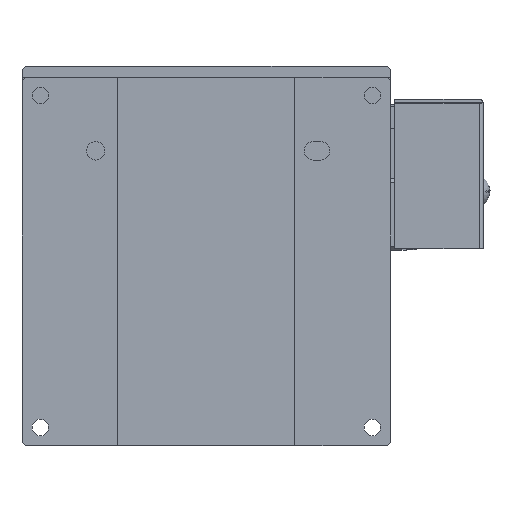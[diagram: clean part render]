
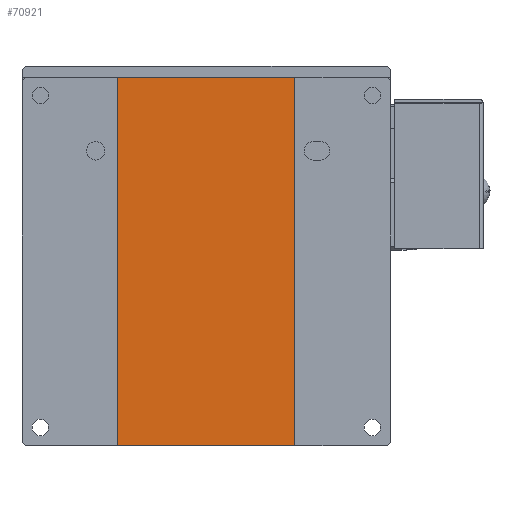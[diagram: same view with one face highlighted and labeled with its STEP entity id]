
A CAD part, front view. The second image highlights one B-rep face of the part: STEP entity #70921.
In plain terms, the highlighted planar face has unit normal (0, -1, 0) as drawn and (1, 0, 0) by its records, which use the part's own axes.
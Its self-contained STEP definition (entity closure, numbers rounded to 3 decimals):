
#1753 = VECTOR ( 'NONE', #51789, 1000. ) ;
#3812 = AXIS2_PLACEMENT_3D ( 'NONE', #6022, #35883, #11312 ) ;
#5494 = LINE ( 'NONE', #51371, #23460 ) ;
#6022 = CARTESIAN_POINT ( 'NONE',  ( 444.23, -160.111, 65. ) ) ;
#7517 = CARTESIAN_POINT ( 'NONE',  ( 444.23, -136.111, 115. ) ) ;
#10174 = DIRECTION ( 'NONE',  ( 0., 0., -1. ) ) ;
#10559 = DIRECTION ( 'NONE',  ( 0., 0., 1. ) ) ;
#11312 = DIRECTION ( 'NONE',  ( 0., 0., -1. ) ) ;
#13783 = EDGE_CURVE ( 'NONE', #60112, #55212, #63095, .T. ) ;
#16670 = CARTESIAN_POINT ( 'NONE',  ( 444.23, -160.111, 115. ) ) ;
#17619 = PLANE ( 'NONE',  #3812 ) ;
#20572 = ORIENTED_EDGE ( 'NONE', *, *, #47024, .T. ) ;
#21037 = FACE_OUTER_BOUND ( 'NONE', #46962, .T. ) ;
#22442 = CARTESIAN_POINT ( 'NONE',  ( 444.23, -136.111, 65. ) ) ;
#23460 = VECTOR ( 'NONE', #10174, 1000. ) ;
#23753 = CARTESIAN_POINT ( 'NONE',  ( 444.23, -184.111, 15. ) ) ;
#26321 = ORIENTED_EDGE ( 'NONE', *, *, #13783, .T. ) ;
#27580 = ORIENTED_EDGE ( 'NONE', *, *, #61914, .T. ) ;
#28091 = CARTESIAN_POINT ( 'NONE',  ( 444.23, -160.111, 15. ) ) ;
#28212 = VERTEX_POINT ( 'NONE', #67849 ) ;
#34409 = VECTOR ( 'NONE', #47556, 1000. ) ;
#35883 = DIRECTION ( 'NONE',  ( -1., 0., 0. ) ) ;
#40511 = VECTOR ( 'NONE', #10559, 1000. ) ;
#46962 = EDGE_LOOP ( 'NONE', ( #27580, #58518, #20572, #26321 ) ) ;
#47024 = EDGE_CURVE ( 'NONE', #62580, #60112, #58449, .T. ) ;
#47556 = DIRECTION ( 'NONE',  ( 0., -1., 0. ) ) ;
#50424 = EDGE_CURVE ( 'NONE', #28212, #62580, #5494, .T. ) ;
#51371 = CARTESIAN_POINT ( 'NONE',  ( 444.23, -184.111, 65. ) ) ;
#51789 = DIRECTION ( 'NONE',  ( 0., 1., 0. ) ) ;
#55212 = VERTEX_POINT ( 'NONE', #7517 ) ;
#58449 = LINE ( 'NONE', #28091, #1753 ) ;
#58518 = ORIENTED_EDGE ( 'NONE', *, *, #50424, .T. ) ;
#60112 = VERTEX_POINT ( 'NONE', #62292 ) ;
#61914 = EDGE_CURVE ( 'NONE', #55212, #28212, #62677, .T. ) ;
#62292 = CARTESIAN_POINT ( 'NONE',  ( 444.23, -136.111, 15. ) ) ;
#62580 = VERTEX_POINT ( 'NONE', #23753 ) ;
#62677 = LINE ( 'NONE', #16670, #34409 ) ;
#63095 = LINE ( 'NONE', #22442, #40511 ) ;
#67849 = CARTESIAN_POINT ( 'NONE',  ( 444.23, -184.111, 115. ) ) ;
#70921 = ADVANCED_FACE ( 'NONE', ( #21037 ), #17619, .F. ) ;
